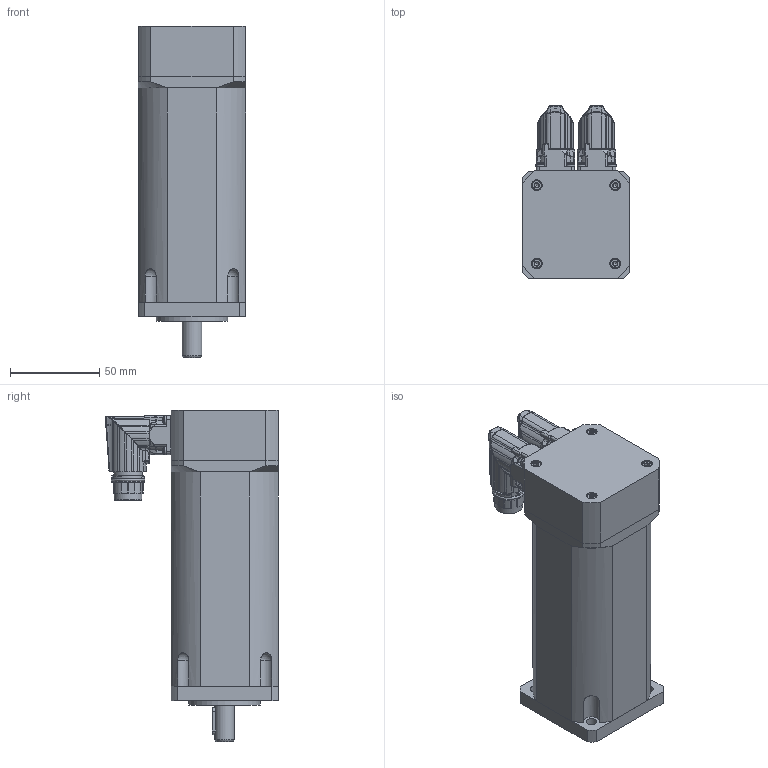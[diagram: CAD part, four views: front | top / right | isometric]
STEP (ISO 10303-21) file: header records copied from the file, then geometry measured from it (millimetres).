
FILE_DESCRIPTION(/* description */ (''),/* implementation_level */ '2;1');
FILE_NAME(/* name */ 'C:\Users\Public\Documents\Autodesk\Inventor LT 2014\Workspace\TG2\DSM5_2x_xxx8\DSM5_22_x1x8.stp',/* time_stamp */ '2016-04-28T09:33:07+02:00',/* author */ ('motion'),/* organization */ (''),/* preprocessor_version */ 'ST-DEVELOPER v15.2',/* originating_system */ 'Autodesk Inventor LT ',/* authorisation */ '');
FILE_SCHEMA (('AUTOMOTIVE_DESIGN { 1 0 10303 214 3 1 1 }'));
Products named in the file (1): DSM5_22_x1x8
Bounding box: 60 x 96.55 x 185.35 mm (x, y, z)
Volume: 573794.4 mm3; surface area: 84101.9 mm2
Topology: 15 solids, 15 shells, 2671 faces, 6846 edges, 4229 vertices
Faces by surface type: cylinder 935, plane 721, bspline 395, torus 282, cone 240, sphere 98
Full cylindrical faces by diameter (mm): 0.6 x17, 1 x7, 1.1 x17, 2.1 x15, 2.224 x8, 2.5 x8, 2.7 x8, 3 x8, 3.2 x6, 3.242 x1, 4.8 x2, 5 x2, 5.5 x8, 5.8 x4, 6 x8, 11 x1, 11.7 x1, 13.701 x1, 14.2 x2, 15 x1, 15.54 x2, 16 x1, 25 x1, 28 x1, 35 x2, 40 x1
Entity records: 115947 total; most frequent: CARTESIAN_POINT 52315, ORIENTED_EDGE 12786, DIRECTION 12629, EDGE_CURVE 6393, AXIS2_PLACEMENT_3D 5296, VERTEX_POINT 4136, EDGE_LOOP 3098, ADVANCED_FACE 2671
